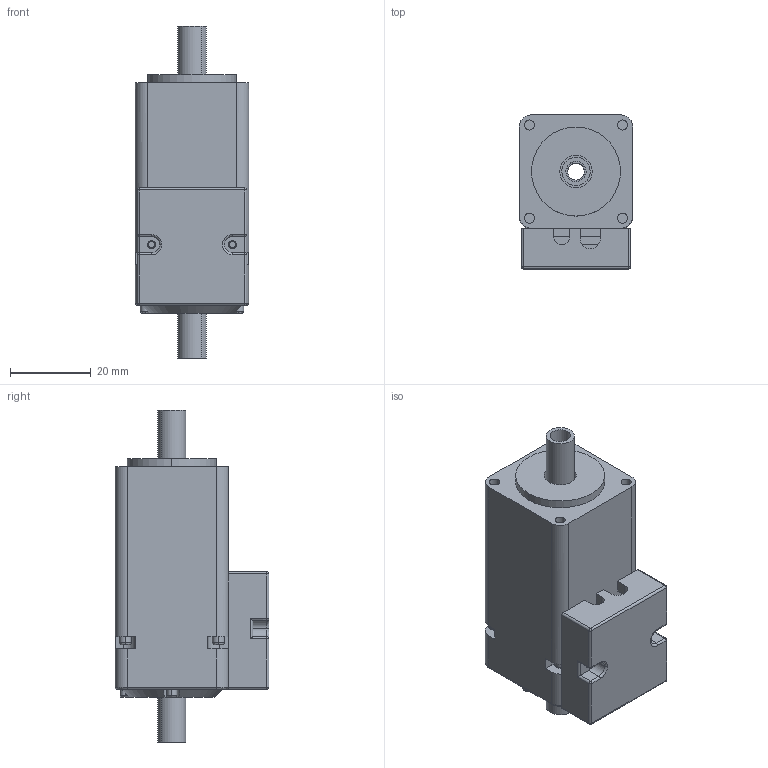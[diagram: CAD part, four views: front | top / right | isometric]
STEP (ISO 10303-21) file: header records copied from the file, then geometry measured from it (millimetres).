
FILE_DESCRIPTION (( 'STEP AP203' ), '1' );
FILE_NAME ('28HSM010-ZK.STEP', '2026-01-23T08:49:04', ( 'Owner' ), ( 'Organization' ), 'SwSTEP 2.0', 'SolidWorks 2018', '' );
FILE_SCHEMA (( 'CONFIG_CONTROL_DESIGN' ));
Length unit declared in the file: millimetre
Products named in the file (4): 28笢諾粣; 28-03; 28HSM010-ZK; _X2_538b7ebf677f_X0_
Assembly tree (3 placements, depth 2):
  28HSM010-ZK
    28-03
    _X2_538b7ebf677f_X0_
    28笢諾粣
Bounding box: 28 x 38 x 82 mm (x, y, z)
Volume: 49862.9 mm3; surface area: 15750.8 mm2
Topology: 3 solids, 3 shells, 339 faces, 902 edges, 579 vertices
Faces by surface type: plane 214, cylinder 93, bspline 29, cone 3
Entity records: 11341 total; most frequent: CARTESIAN_POINT 2792, ORIENTED_EDGE 1788, DIRECTION 1584, EDGE_CURVE 894, VERTEX_POINT 579, VECTOR 538, LINE 538, AXIS2_PLACEMENT_3D 523
